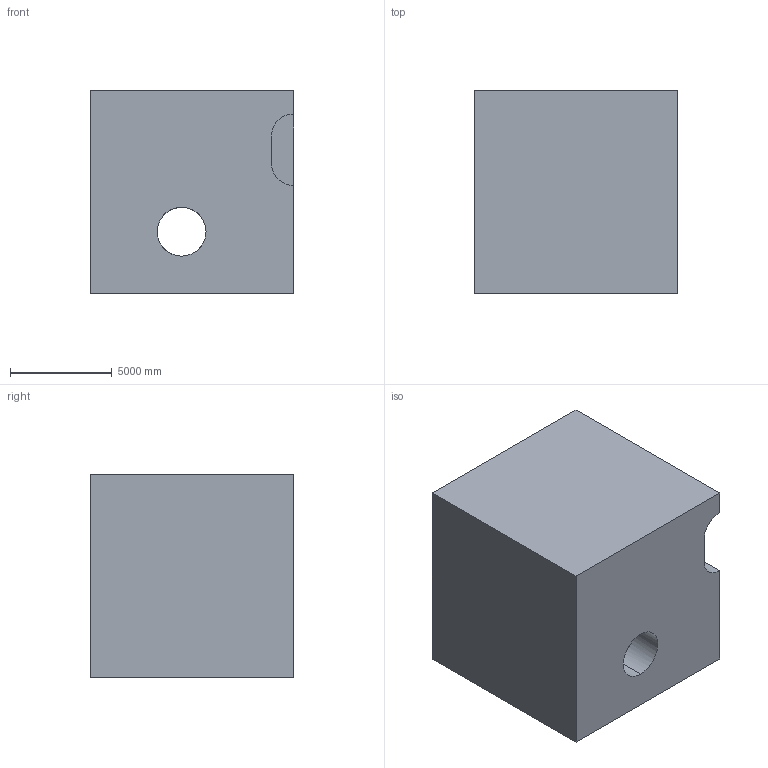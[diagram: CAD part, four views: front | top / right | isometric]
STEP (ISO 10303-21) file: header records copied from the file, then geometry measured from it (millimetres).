
FILE_DESCRIPTION (( 'STEP AP203' ), '1' );
FILE_NAME ('347.STEP', '2022-07-28T14:25:57', ( 'user' ), ( '' ), 'SwSTEP 2.0', 'SolidWorks 2021', '' );
FILE_SCHEMA (( 'CONFIG_CONTROL_DESIGN' ));
Length unit declared in the file: centimetre
Products named in the file (1): 347
Bounding box: 10000 x 10000 x 10000 mm (x, y, z)
Volume: 864799622059.9 mm3; surface area: 716597958.5 mm2
Topology: 1 solids, 1 shells, 27 faces, 81 edges, 54 vertices
Faces by surface type: plane 20, cylinder 7
Entity records: 992 total; most frequent: CARTESIAN_POINT 205, ORIENTED_EDGE 162, DIRECTION 135, EDGE_CURVE 81, LINE 55, VECTOR 55, VERTEX_POINT 54, AXIS2_PLACEMENT_3D 40
